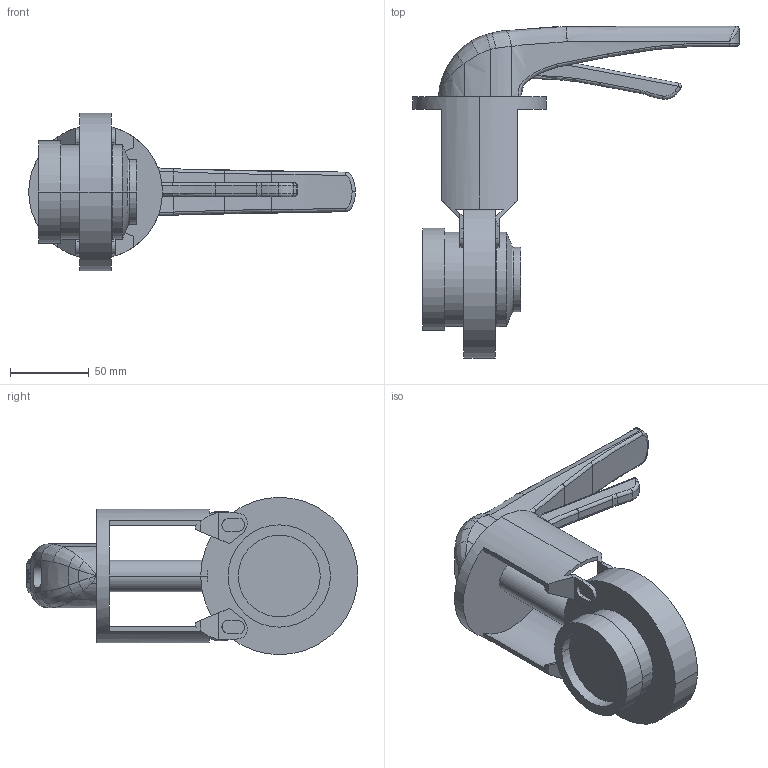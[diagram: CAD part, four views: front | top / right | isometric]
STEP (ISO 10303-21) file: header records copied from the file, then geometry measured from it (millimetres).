
FILE_DESCRIPTION(('Creo Elements/Direct Modeling STEP Export'),'2;1');
FILE_NAME('SV1-40-HL-1S-2G.stp','2014-08-05T16:24:50',(''),(''),'Creo Elements/Direct Modeling STEP processor for AP214 (Solid Model)','Creo Elements/Direct Modeling 17.0D 15-Jul-2011 (C) Parametric Technology GmbH','');
FILE_SCHEMA(('AUTOMOTIVE_DESIGN { 1 0 10303 214 1 1 1 1 }'));
Length unit declared in the file: millimetre
Products named in the file (4): SV1-40-H-1S-2G; Handhebel_SV; SV_Laterne_HL_40_50; SV1-40-HL-1S-2G.stp
Assembly tree (3 placements, depth 2):
  SV1-40-HL-1S-2G.stp
    SV_Laterne_HL_40_50
    Handhebel_SV
    SV1-40-H-1S-2G
Bounding box: 207.53 x 211 x 100 mm (x, y, z)
Volume: 474779.7 mm3; surface area: 89500.2 mm2
Topology: 3 solids, 3 shells, 294 faces, 764 edges, 488 vertices
Faces by surface type: plane 159, cylinder 51, bspline 34, extrusion 32, torus 14, sphere 2, cone 2
Entity records: 24532 total; most frequent: CARTESIAN_POINT 17453, ORIENTED_EDGE 1520, DIRECTION 1121, EDGE_CURVE 760, VERTEX_POINT 488, VECTOR 419, LINE 387, AXIS2_PLACEMENT_3D 351
